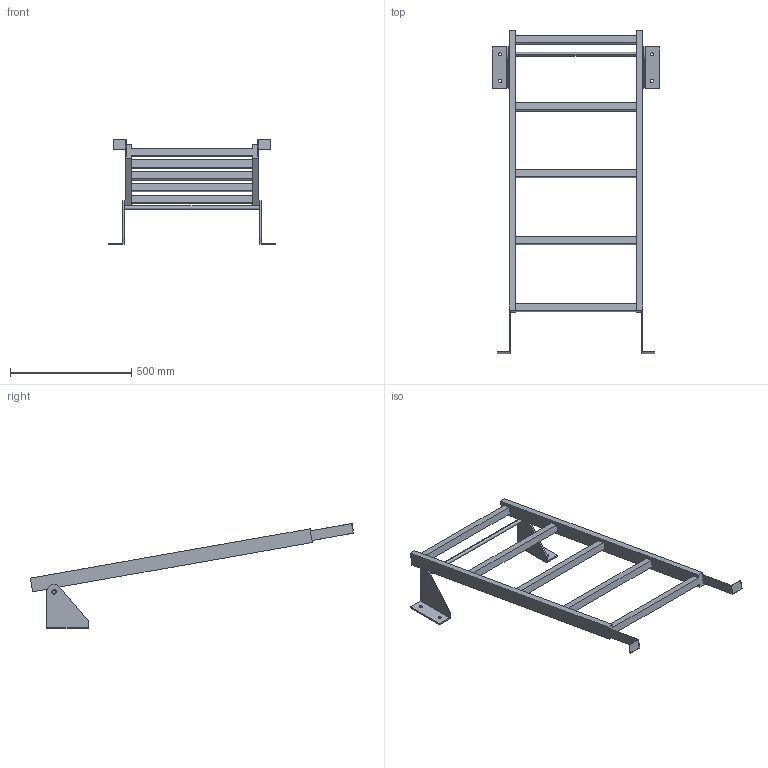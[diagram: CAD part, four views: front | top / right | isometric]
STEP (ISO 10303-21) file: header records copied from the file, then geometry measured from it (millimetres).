
FILE_DESCRIPTION((''),'2;1');
FILE_NAME('52309750','2024-10-17T08:53:50',('wep'),('HUBER SE'),'CREO PARAMETRIC BY PTC INC, 2022162','CREO PARAMETRIC BY PTC INC, 2022162','');
FILE_SCHEMA(('AUTOMOTIVE_DESIGN { 1 0 10303 214 1 1 1 1 }'));
Length unit declared in the file: millimetre
Products named in the file (1): 52309750
Bounding box: 690 x 1332 x 432.3 mm (x, y, z)
Volume: 6089302.1 mm3; surface area: 878638.7 mm2
Topology: 4 solids, 4 shells, 78 faces, 204 edges, 136 vertices
Faces by surface type: plane 62, cylinder 16
Entity records: 2983 total; most frequent: CARTESIAN_POINT 420, ORIENTED_EDGE 408, DIRECTION 392, EDGE_CURVE 204, VECTOR 172, LINE 172, VERTEX_POINT 136, AXIS2_PLACEMENT_3D 110
